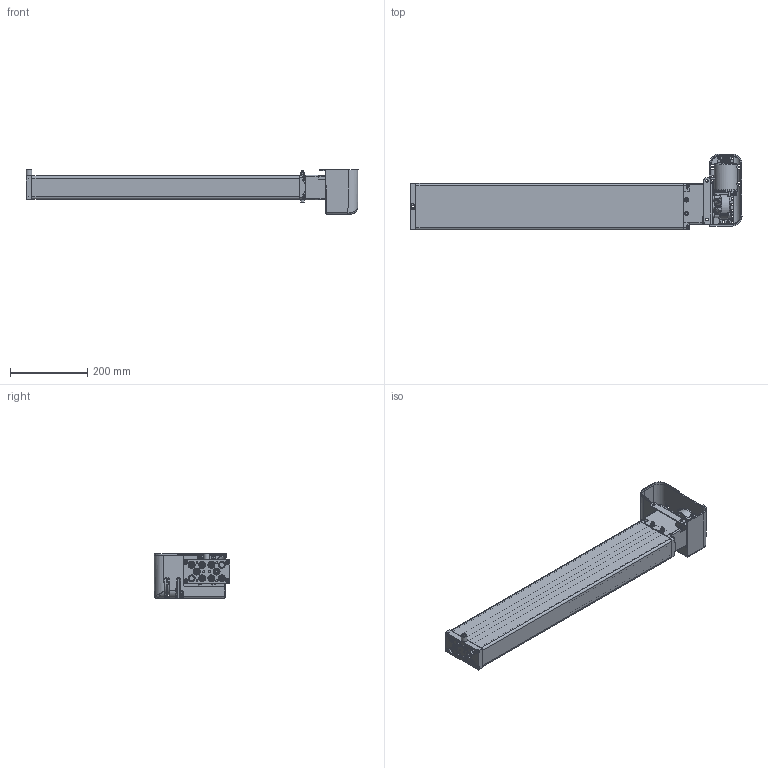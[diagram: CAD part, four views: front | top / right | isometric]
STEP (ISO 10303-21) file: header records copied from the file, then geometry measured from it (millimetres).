
FILE_DESCRIPTION(/* description */ ('Unknown'),/* implementation_level */ '2;1');
FILE_NAME(/* name */ '3X2.20195 Pumpe PB 8430 W mit Antrieb',/* time_stamp */ '2016-11-24T16:54:35+01:00',/* author */ ('Unknown'),/* organization */ ('Unknown'),/* preprocessor_version */ 'ST-DEVELOPER v16.7',/* originating_system */ 'DEX',/* authorisation */ $);
FILE_SCHEMA (('AUTOMOTIVE_DESIGN {1 0 10303 214 3 1 1}'));
Products named in the file (32): 102.00195; 115.10025; 125.00031; 115.00007; 142.00021; 125.00021; 142.00013; 125.00145; 115.00140; 126.00006; 122.00040; 119.00045; 126.00036; 127.00201; 127.00200; 127.00023; 124.00090; Getriebe; Ring; Schraube; Stator; Abdeckplatte; Antriebswelle; 128.00051; 123.00031; 142.00018; 142.00019; 142.00025; 142.00131; 123.00029; 142.00057; 142.00017
Assembly tree (51 placements, depth 3):
  102.00195
    115.10025  x8
      125.00031
      115.00007
      142.00021
      125.00021
    142.00013  x8
    125.00145
    115.00140
      126.00006
      122.00040
    119.00045
    126.00036
    127.00201
      127.00200
      127.00023
    124.00090
      Getriebe
      Ring
      Schraube
      Stator
      Abdeckplatte
      Antriebswelle
    128.00051
    123.00031
    142.00018  x2
    142.00019  x2
    142.00025  x2
    142.00131  x3
    123.00029
    142.00057
    142.00017  x2
Bounding box: 858.45 x 196.04 x 115.45 mm (x, y, z)
Volume: 1365616.6 mm3; surface area: 900503.5 mm2
Topology: 60 solids, 62 shells, 4362 faces, 10958 edges, 6721 vertices
Faces by surface type: plane 1355, cylinder 1182, bspline 1040, cone 491, torus 196, sphere 98
Full cylindrical faces by diameter (mm): 2.5 x4, 3.2 x4, 3.5 x8, 3.9 x5, 4.1 x8, 4.134 x4, 4.2 x10, 4.4 x5, 4.5 x1, 4.917 x4, 5 x8, 5.5 x5, 5.8 x4, 6 x8, 6.4 x2, 6.8 x6, 6.917 x16, 7 x1, 8 x18, 8.5 x6, 9 x10, 9.5 x1, 9.8 x8, 10 x10, 10.3 x1, 10.32 x1, 10.4 x1, 10.5 x4, 11 x5, 12.5 x8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
Entity records: 164936 total; most frequent: CARTESIAN_POINT 80620, ORIENTED_EDGE 16008, DIRECTION 12023, EDGE_CURVE 8004, VERTEX_POINT 5254, AXIS2_PLACEMENT_3D 4655, FACE_BOUND 4000, EDGE_LOOP 3995
